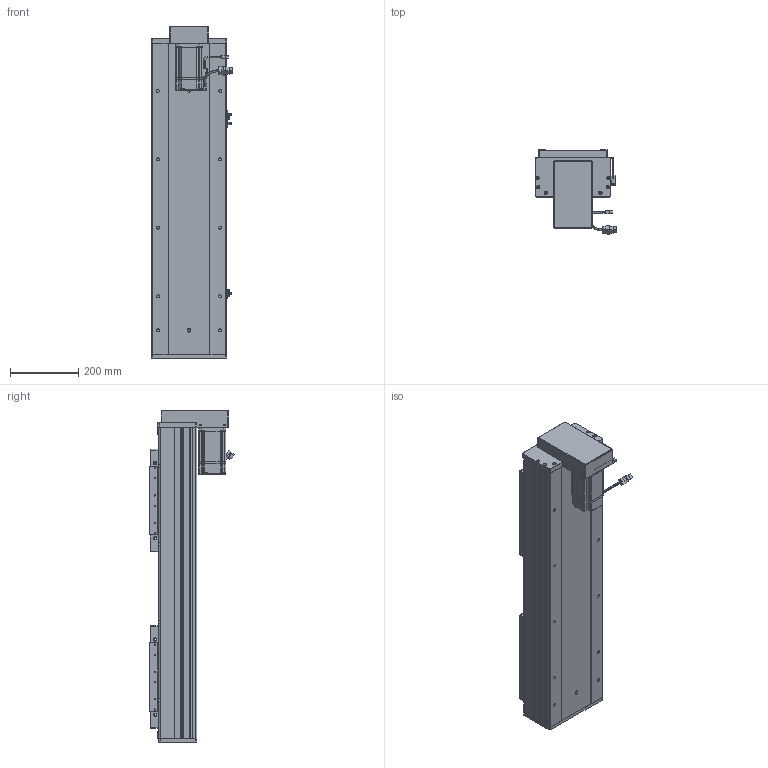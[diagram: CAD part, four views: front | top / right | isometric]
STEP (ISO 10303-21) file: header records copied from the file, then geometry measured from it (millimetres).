
FILE_DESCRIPTION (( 'STEP AP203' ), '1' );
FILE_NAME ('RY220F-L2525-300-BK.SLDASM_500.step', '2022-07-04T01:20:26', ( '' ), ( '' ), 'SwSTEP 2.0', 'SolidWorks 2016', '' );
FILE_SCHEMA (( 'CONFIG_CONTROL_DESIGN' ));
Length unit declared in the file: millimetre
Products named in the file (15): RY220狟殏萇儂假蚾啣; 覜茼ん672; RY220F綴裔啣; RY220F蛌殏菁釱-300_500; 滅袉蝶18-24; 怢湛750W_ECMA-CX0807ES; RY220F-祥凄詩湍-蛌殏-300_500; RY220F-672覜茼んえ; RY220F-詩湍揤踡輸; RY220F-蛌殏奻裔啣-300_500; 侐源滅袉蝶; RY220狟殏萇儂欶; RY220F-滅鳥奻裔; RY220F-L2525-300-BK.SLDASM_500; RY220F臏賑釱25-32佪裝
Assembly tree (24 placements, depth 2):
  RY220F-L2525-300-BK.SLDASM_500
    RY220F蛌殏菁釱-300_500
    RY220F-蛌殏奻裔啣-300_500  x2
    怢湛750W_ECMA-CX0807ES
    RY220F臏賑釱25-32佪裝  x2
    RY220F-滅鳥奻裔  x2
    滅袉蝶18-24  x3
    RY220F綴裔啣
    RY220F-祥凄詩湍-蛌殏-300_500
    RY220F-詩湍揤踡輸  x2
    覜茼ん672  x3
    RY220F-672覜茼んえ  x2
    侐源滅袉蝶  x2
    RY220狟殏萇儂假蚾啣
    RY220狟殏萇儂欶
Bounding box: 237.27 x 247.24 x 971 mm (x, y, z)
Volume: 11120154.2 mm3; surface area: 2791166.4 mm2
Topology: 25 solids, 25 shells, 2675 faces, 7286 edges, 4531 vertices
Faces by surface type: cylinder 1178, plane 1062, cone 364, bspline 45, sphere 16, torus 10
Entity records: 66077 total; most frequent: CARTESIAN_POINT 18237, ORIENTED_EDGE 9714, DIRECTION 9309, EDGE_CURVE 4857, AXIS2_PLACEMENT_3D 3270, VERTEX_POINT 3147, VECTOR 2769, LINE 2769
